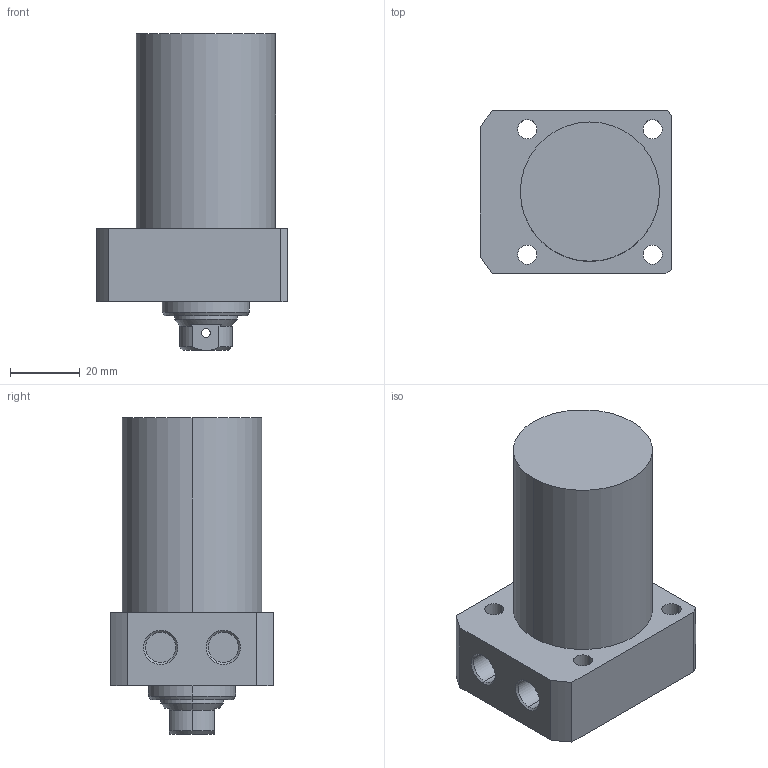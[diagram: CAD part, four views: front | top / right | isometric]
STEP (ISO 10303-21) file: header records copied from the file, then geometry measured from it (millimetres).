
FILE_DESCRIPTION (( 'STEP AP203' ), '1' );
FILE_NAME ('CLL-R040-CB-045.STEP', '2017-05-10T11:59:37', ( '' ), ( '' ), 'SwSTEP 2.0', 'SolidWorks 2015', '' );
FILE_SCHEMA (( 'CONFIG_CONTROL_DESIGN' ));
Length unit declared in the file: millimetre
Products named in the file (1): CLL-R040-CB-045
Bounding box: 55 x 47 x 91 mm (x, y, z)
Volume: 123406 mm3; surface area: 19530.3 mm2
Topology: 1 solids, 1 shells, 67 faces, 159 edges, 100 vertices
Faces by surface type: cylinder 33, plane 19, cone 15
Entity records: 2129 total; most frequent: CARTESIAN_POINT 441, DIRECTION 358, ORIENTED_EDGE 314, EDGE_CURVE 157, AXIS2_PLACEMENT_3D 145, VERTEX_POINT 100, EDGE_LOOP 87, CIRCLE 77
